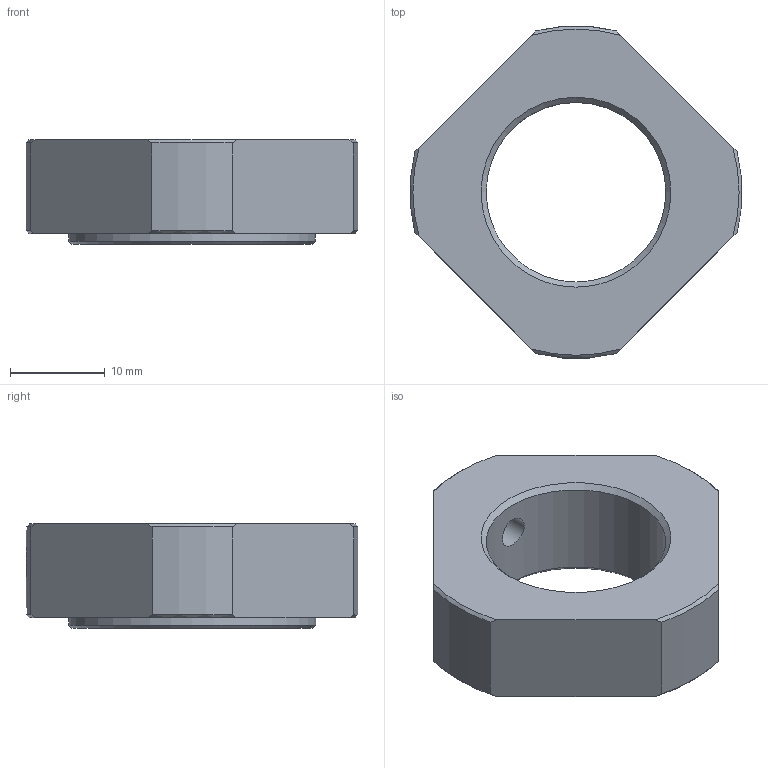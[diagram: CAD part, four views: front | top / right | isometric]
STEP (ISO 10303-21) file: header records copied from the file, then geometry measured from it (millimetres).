
FILE_DESCRIPTION(/* description */ ('STEP AP203'),/* implementation_level */ '2;1');
FILE_NAME(/* name */ 'RN 20',/* time_stamp */ '2025-06-11T07:41:58+02:00',/* author */ ('License CC BY-ND 4.0'),/* organization */ ('CADENAS'),/* preprocessor_version */ 'ST-DEVELOPER v19.3',/* originating_system */ 'PARTsolutions',/* authorisation */ ' ');
FILE_SCHEMA (('CONFIG_CONTROL_DESIGN'));
Length unit declared in the file: millimetre
Products named in the file (1): RN 20
Bounding box: 34.88 x 34.94 x 11 mm (x, y, z)
Volume: 5756.6 mm3; surface area: 2890.3 mm2
Topology: 1 solids, 1 shells, 36 faces, 86 edges, 56 vertices
Faces by surface type: plane 16, cone 12, cylinder 8
Full cylindrical faces by diameter (mm): 3.242 x1, 4 x1, 18.917 x1, 26 x1
Entity records: 1070 total; most frequent: CARTESIAN_POINT 239, DIRECTION 160, ORIENTED_EDGE 156, EDGE_CURVE 78, AXIS2_PLACEMENT_3D 63, VERTEX_POINT 56, EDGE_LOOP 50, FACE_BOUND 50
